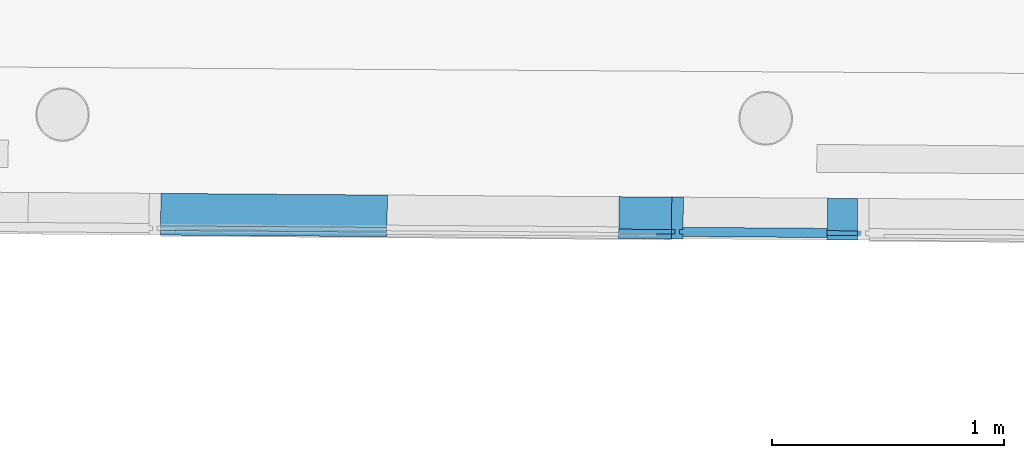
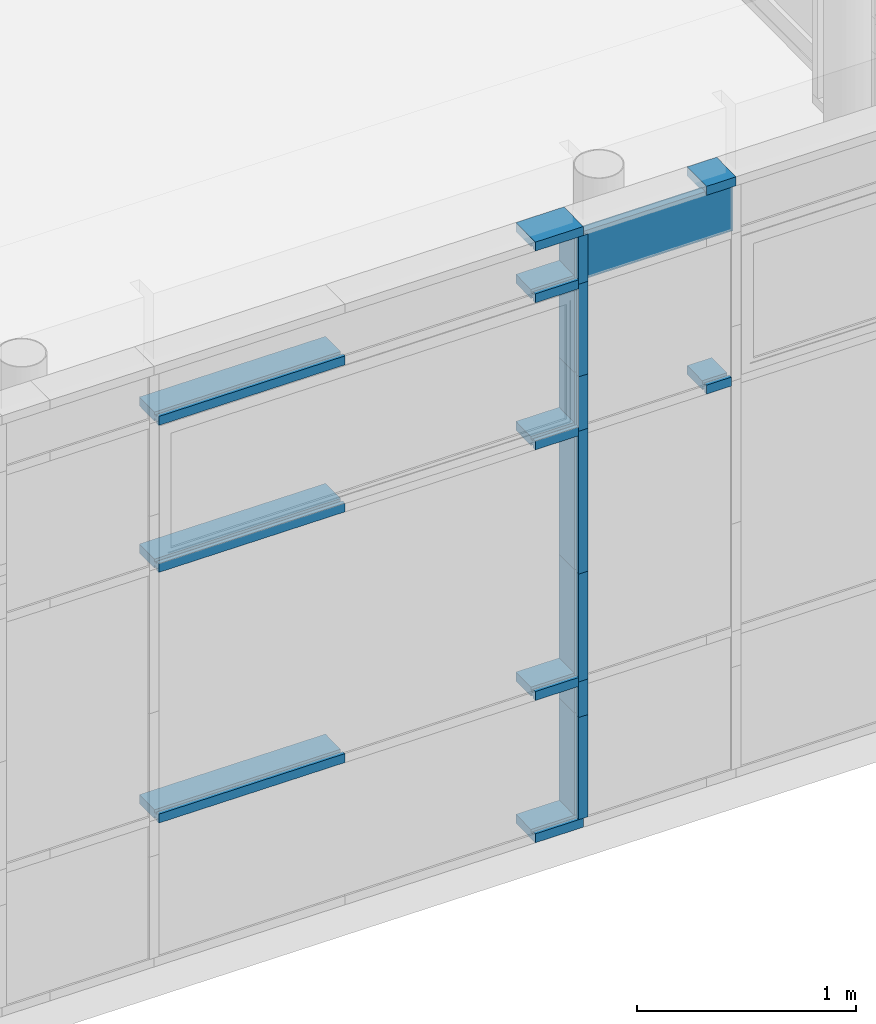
# One storey, part 173 of 196: 18 building element parts, 1 element without a shape of its own.
"""IFC2X3 building model written with IfcOpenShell, lengths in metres."""

from ifc_helpers import new_model, entity, si_unit, converted_unit, derived_unit, money_unit, direction, frame, origin_with_axes, place, context, subcontext, project, spatial, faceted_brep, material, type_object, element, aggregate, save


model = new_model("IFC2X3")

# Units and contexts
model_context = context("Model", 3, precision=1e-05, world=origin_with_axes(), true_north=direction((0.0, 1.0)))
body_context = subcontext(model_context, "Body", "Model", "MODEL_VIEW")
ifc_project = project(units=[si_unit("LENGTHUNIT", "METRE"), si_unit("AREAUNIT", "SQUARE_METRE"), si_unit("VOLUMEUNIT", "CUBIC_METRE"), converted_unit("PLANEANGLEUNIT", "DEGREE", entity("IfcPlaneAngleMeasure", 0.0174532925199), si_unit("PLANEANGLEUNIT", "RADIAN"), dimensions=[0, 0, 0, 0, 0, 0, 0]), money_unit("EUR"), converted_unit("TIMEUNIT", "Year", entity("IfcTimeMeasure", 31556926.0), si_unit("TIMEUNIT", "SECOND"), dimensions=[0, 0, 1, 0, 0, 0, 0]), si_unit("MASSUNIT", "GRAM", prefix="KILO"), si_unit("THERMODYNAMICTEMPERATUREUNIT", "DEGREE_CELSIUS"), si_unit("LUMINOUSINTENSITYUNIT", "LUMEN"), si_unit("ENERGYUNIT", "JOULE", prefix="MEGA"), derived_unit("THERMALCONDUCTANCEUNIT", [(si_unit("POWERUNIT", "WATT"), 1), (si_unit("LENGTHUNIT", "METRE"), -1), (si_unit("THERMODYNAMICTEMPERATUREUNIT", "KELVIN"), -1)]), derived_unit("SPECIFICHEATCAPACITYUNIT", [(si_unit("ENERGYUNIT", "JOULE"), 1), (si_unit("MASSUNIT", "GRAM", prefix="KILO"), -1), (si_unit("THERMODYNAMICTEMPERATUREUNIT", "KELVIN"), -1)]), derived_unit("MASSDENSITYUNIT", [(si_unit("MASSUNIT", "GRAM", prefix="KILO"), 1), (si_unit("VOLUMEUNIT", "CUBIC_METRE"), -1)])], contexts=[model_context])

# Site, building, storey
site_placement = place(None, origin_with_axes())
site = spatial("IfcSite", under=ifc_project, at=site_placement, Name="Gelände", CompositionType="ELEMENT")
building_placement = place(site_placement, origin_with_axes())
building = spatial("IfcBuilding", under=site, at=building_placement, Name="Gebäude", CompositionType="ELEMENT")
storey_placement = place(building_placement, frame((0.0, 0.0, -3.0), z_axis=(0.0, 0.0, 1.0), x_axis=(1.0, 0.0, 0.0)))
storey = spatial("IfcBuildingStorey", under=building, at=storey_placement, Name="KELLERGESCHOSS", CompositionType="ELEMENT", Elevation=-3.0)

# Proxy, building element parts
building_element_proxy_type = type_object("IfcBuildingElementProxyType", Name="Fassadentyp", PredefinedType="NOTDEFINED")
proxy_placement = place(storey_placement, frame((2.54090824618, 35.7894672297, 0.610000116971), z_axis=(0.0, 0.0, 1.0), x_axis=(1.0, 0.0, 0.0)))
proxy = element("IfcBuildingElementProxy", 1, at=proxy_placement, inside=storey, type_object=building_element_proxy_type, Name="Fassade-002")
ifc_material_1 = material(Name="45_Glas, Normalglas")
building_element_part_1_placement = place(proxy_placement, origin_with_axes())
building_element_part_1 = element("IfcBuildingElementPart", 2, at=building_element_part_1_placement, material=ifc_material_1, Name="45_Glas, Normalglas", context=body_context, shape_type="Brep", body=[
    faceted_brep([(3.48460452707, -0.00524939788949, 3.31499993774), (3.3393378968, -0.00419677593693, 3.31499993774), (3.33904805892, -0.0441957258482, 3.31499993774), (3.48431468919, -0.0452483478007, 3.31499993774), (3.48460452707, -0.00524939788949, 3.0464957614), (3.3393378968, -0.00419677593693, 3.0464957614), (2.70229887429, 0.000419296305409, 3.0464957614), (2.70229887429, 0.000419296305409, 3.31499993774), (2.70200903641, -0.0395796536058, 3.31499993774), (2.70200903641, -0.0395796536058, 3.0464957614), (3.33904805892, -0.0441957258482, 3.0464957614), (3.48431468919, -0.0452483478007, 3.0464957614)], [[[0, 1, 2, 3]], [[0, 4, 5, 6, 7, 1]], [[1, 7, 8, 2]], [[3, 2, 8, 9, 10, 11]], [[4, 0, 3, 11]], [[5, 4, 11, 10]], [[6, 5, 10, 9]], [[7, 6, 9, 8]]]),
])
ifc_material_2 = material(Name="53_Metall, Aluminium")
building_element_part_2_placement = place(proxy_placement, origin_with_axes())
building_element_part_2 = element("IfcBuildingElementPart", 3, at=building_element_part_2_placement, material=ifc_material_2, Name="53_Metall, Aluminium", context=body_context, shape_type="Brep", body=[
    faceted_brep([(1.43931531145, -0.00042921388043, 3.02649576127), (1.43931531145, -0.00042921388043, 3.01149576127), (1.44032974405, 0.139567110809, 3.01149576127), (1.44032974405, 0.139567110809, 3.06149576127), (1.43931531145, -0.00042921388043, 3.06149576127), (1.43931531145, -0.00042921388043, 3.04649576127), (1.43917039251, -0.020428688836, 3.04649576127), (1.43917039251, -0.020428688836, 3.06149576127), (1.43902547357, -0.0404281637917, 3.06149576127), (1.43902547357, -0.0404281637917, 3.01149576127), (1.43917039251, -0.020428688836, 3.01149576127), (1.43917039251, -0.020428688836, 3.02649576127), (0.461541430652, 0.0066558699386, 3.02649576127), (0.461541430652, 0.0066558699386, 3.01149576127), (0.46255586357, 0.146652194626, 3.01149576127), (0.46255586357, 0.146652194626, 3.06149576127), (0.461541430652, 0.0066558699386, 3.06149576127), (0.461541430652, 0.0066558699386, 3.04649576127), (0.461396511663, -0.0133436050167, 3.04649576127), (0.461396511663, -0.0133436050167, 3.06149576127), (0.461251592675, -0.033343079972, 3.06149576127), (0.461251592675, -0.033343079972, 3.01149576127), (0.461396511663, -0.0133436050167, 3.01149576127), (0.461396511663, -0.0133436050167, 3.02649576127)], [[[0, 1, 2, 3, 4, 5, 6, 7, 8, 9, 10, 11]], [[1, 0, 12, 13]], [[1, 13, 14, 2]], [[2, 14, 15, 3]], [[4, 3, 15, 16]], [[4, 16, 17, 5]], [[5, 17, 18, 6]], [[7, 6, 18, 19]], [[19, 20, 8, 7]], [[8, 20, 21, 9]], [[22, 10, 9, 21]], [[11, 10, 22, 23]], [[0, 11, 23, 12]], [[23, 22, 21, 20, 19, 18, 17, 16, 15, 14, 13, 12]]]),
])
building_element_part_3_placement = place(proxy_placement, origin_with_axes())
building_element_part_3 = element("IfcBuildingElementPart", 4, at=building_element_part_3_placement, material=ifc_material_2, Name="53_Metall, Aluminium", context=body_context, shape_type="Brep", body=[
    faceted_brep([(3.49453180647, -0.0153215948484, 3.31499994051), (3.49453180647, -0.0153215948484, 3.29999994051), (3.49554623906, 0.124674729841, 3.29999994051), (3.49554623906, 0.124674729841, 3.34999994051), (3.49424196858, -0.0553205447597, 3.34999994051), (3.49424196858, -0.0553205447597, 3.29999994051), (3.49438688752, -0.035321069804, 3.29999994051), (3.49438688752, -0.035321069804, 3.31499994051), (3.33926543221, -0.0141965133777, 3.31499994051), (3.33926543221, -0.0141965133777, 3.29999994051), (3.34027986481, 0.125799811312, 3.29999994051), (3.34027986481, 0.125799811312, 3.34999994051), (3.33897559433, -0.0541954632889, 3.34999994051), (3.33897559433, -0.0541954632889, 3.29999994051), (3.33912051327, -0.0341959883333, 3.29999994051), (3.33912051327, -0.0341959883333, 3.31499994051)], [[[0, 1, 2, 3, 4, 5, 6, 7]], [[0, 8, 9, 1]], [[9, 10, 2, 1]], [[10, 11, 3, 2]], [[11, 12, 4, 3]], [[12, 13, 5, 4]], [[6, 5, 13, 14]], [[14, 15, 7, 6]], [[7, 15, 8, 0]], [[8, 15, 14, 13, 12, 11, 10, 9]]]),
])
building_element_part_4_placement = place(proxy_placement, origin_with_axes())
building_element_part_4 = element("IfcBuildingElementPart", 5, at=building_element_part_4_placement, material=ifc_material_2, Name="53_Metall, Aluminium", context=body_context, shape_type="Brep", body=[
    faceted_brep([(3.46953245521, -0.015140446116, 2.20648768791), (3.46953245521, -0.015140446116, 2.19148768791), (3.47054688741, 0.124855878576, 2.19148768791), (3.47054688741, 0.124855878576, 2.24148768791), (3.46953245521, -0.015140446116, 2.24148768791), (3.46953245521, -0.015140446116, 2.22648768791), (3.46938753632, -0.035139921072, 2.22648768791), (3.46938753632, -0.035139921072, 2.24148768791), (3.46924261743, -0.0551393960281, 2.24148768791), (3.46924261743, -0.0551393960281, 2.19148768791), (3.46938753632, -0.035139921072, 2.19148768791), (3.46938753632, -0.035139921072, 2.20648768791), (3.33926543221, -0.0141965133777, 2.20648768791), (3.33926543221, -0.0141965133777, 2.19148768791), (3.34027986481, 0.125799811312, 2.19148768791), (3.34027986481, 0.125799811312, 2.24148768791), (3.33926543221, -0.0141965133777, 2.24148768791), (3.33926543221, -0.0141965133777, 2.22648768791), (3.33912051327, -0.0341959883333, 2.22648768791), (3.33912051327, -0.0341959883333, 2.24148768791), (3.33897559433, -0.0541954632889, 2.24148768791), (3.33897559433, -0.0541954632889, 2.19148768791), (3.33912051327, -0.0341959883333, 2.19148768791), (3.33912051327, -0.0341959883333, 2.20648768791)], [[[0, 1, 2, 3, 4, 5, 6, 7, 8, 9, 10, 11]], [[1, 0, 12, 13]], [[1, 13, 14, 2]], [[3, 2, 14, 15]], [[4, 3, 15, 16]], [[4, 16, 17, 5]], [[5, 17, 18, 6]], [[7, 6, 18, 19]], [[19, 20, 8, 7]], [[9, 8, 20, 21]], [[22, 10, 9, 21]], [[11, 10, 22, 23]], [[0, 11, 23, 12]], [[23, 22, 21, 20, 19, 18, 17, 16, 15, 14, 13, 12]]]),
])
building_element_part_5_placement = place(proxy_placement, origin_with_axes())
building_element_part_5 = element("IfcBuildingElementPart", 6, at=building_element_part_5_placement, material=ifc_material_2, Name="53_Metall, Aluminium", context=body_context, shape_type="Brep", body=[
    faceted_brep([(2.70222641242, -0.00958044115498, 2.51999988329), (2.71722601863, -0.00968913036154, 2.51999988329), (2.71824045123, 0.130307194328, 2.51999988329), (2.66824176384, 0.130669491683, 2.51999988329), (2.66722733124, -0.00932683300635, 2.51999988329), (2.68222693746, -0.0094355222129, 2.51999988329), (2.68208201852, -0.0294349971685, 2.51999988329), (2.6670824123, -0.029326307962, 2.51999988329), (2.66693749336, -0.0493257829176, 2.51999988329), (2.71693618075, -0.0496880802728, 2.51999988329), (2.71708109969, -0.0296886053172, 2.51999988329), (2.70208149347, -0.0295799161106, 2.51999988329), (2.70222641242, -0.00958044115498, 2.21648768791), (2.71722601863, -0.00968913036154, 2.21648768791), (2.71824045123, 0.130307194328, 2.21648768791), (2.66824176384, 0.130669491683, 2.21648768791), (2.66722733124, -0.00932683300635, 2.21648768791), (2.68222693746, -0.0094355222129, 2.21648768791), (2.68208201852, -0.0294349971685, 2.21648768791), (2.6670824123, -0.029326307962, 2.21648768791), (2.66693749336, -0.0493257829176, 2.21648768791), (2.71693618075, -0.0496880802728, 2.21648768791), (2.71708109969, -0.0296886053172, 2.21648768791), (2.70208149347, -0.0295799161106, 2.21648768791)], [[[0, 1, 2, 3, 4, 5, 6, 7, 8, 9, 10, 11]], [[1, 0, 12, 13]], [[1, 13, 14, 2]], [[3, 2, 14, 15]], [[4, 3, 15, 16]], [[4, 16, 17, 5]], [[5, 17, 18, 6]], [[7, 6, 18, 19]], [[19, 20, 8, 7]], [[9, 8, 20, 21]], [[22, 10, 9, 21]], [[11, 10, 22, 23]], [[0, 11, 23, 12]], [[23, 22, 21, 20, 19, 18, 17, 16, 15, 14, 13, 12]]]),
])
building_element_part_6_placement = place(proxy_placement, origin_with_axes())
building_element_part_6 = element("IfcBuildingElementPart", 7, at=building_element_part_6_placement, material=ifc_material_2, Name="53_Metall, Aluminium", context=body_context, shape_type="Brep", body=[
    faceted_brep([(2.69222667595, -0.0095079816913, 3.31499994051), (2.69222667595, -0.0095079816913, 3.29999994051), (2.69324110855, 0.130488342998, 3.29999994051), (2.69324110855, 0.130488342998, 3.34999994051), (2.69193683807, -0.0495069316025, 3.34999994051), (2.69193683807, -0.0495069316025, 3.29999994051), (2.69208175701, -0.0295074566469, 3.29999994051), (2.69208175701, -0.0295074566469, 3.31499994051), (2.43928905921, -0.00767516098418, 3.31499994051), (2.43928905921, -0.00767516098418, 3.29999994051), (2.44030349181, 0.132321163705, 3.29999994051), (2.44030349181, 0.132321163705, 3.34999994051), (2.43899922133, -0.0476741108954, 3.34999994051), (2.43899922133, -0.0476741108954, 3.29999994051), (2.43914414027, -0.0276746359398, 3.29999994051), (2.43914414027, -0.0276746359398, 3.31499994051)], [[[0, 1, 2, 3, 4, 5, 6, 7]], [[0, 8, 9, 1]], [[9, 10, 2, 1]], [[10, 11, 3, 2]], [[11, 12, 4, 3]], [[12, 13, 5, 4]], [[6, 5, 13, 14]], [[14, 15, 7, 6]], [[7, 15, 8, 0]], [[8, 15, 14, 13, 12, 11, 10, 9]]]),
])
building_element_part_7_placement = place(proxy_placement, origin_with_axes())
building_element_part_7 = element("IfcBuildingElementPart", 8, at=building_element_part_7_placement, material=ifc_material_2, Name="53_Metall, Aluminium", context=body_context, shape_type="Brep", body=[
    faceted_brep([(2.70222640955, -0.00958044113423, 2.21648768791), (2.71722601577, -0.0096891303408, 2.21648768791), (2.71824044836, 0.130307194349, 2.21648768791), (2.66824176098, 0.130669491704, 2.21648768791), (2.66722732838, -0.0093268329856, 2.21648768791), (2.6822269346, -0.00943552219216, 2.21648768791), (2.68208201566, -0.0294349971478, 2.21648768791), (2.66708240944, -0.0293263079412, 2.21648768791), (2.6669374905, -0.0493257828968, 2.21648768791), (2.71693617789, -0.049688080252, 2.21648768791), (2.71708109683, -0.0296886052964, 2.21648768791), (2.70208149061, -0.0295799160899, 2.21648768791), (2.70222640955, -0.00958044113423, 1.41999988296), (2.71722601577, -0.0096891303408, 1.41999988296), (2.71824044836, 0.130307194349, 1.41999988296), (2.66824176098, 0.130669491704, 1.41999988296), (2.66722732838, -0.0093268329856, 1.41999988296), (2.6822269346, -0.00943552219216, 1.41999988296), (2.68208201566, -0.0294349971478, 1.41999988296), (2.66708240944, -0.0293263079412, 1.41999988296), (2.6669374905, -0.0493257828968, 1.41999988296), (2.71693617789, -0.049688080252, 1.41999988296), (2.71708109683, -0.0296886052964, 1.41999988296), (2.70208149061, -0.0295799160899, 1.41999988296)], [[[0, 1, 2, 3, 4, 5, 6, 7, 8, 9, 10, 11]], [[1, 0, 12, 13]], [[1, 13, 14, 2]], [[3, 2, 14, 15]], [[4, 3, 15, 16]], [[4, 16, 17, 5]], [[5, 17, 18, 6]], [[7, 6, 18, 19]], [[19, 20, 8, 7]], [[9, 8, 20, 21]], [[22, 10, 9, 21]], [[11, 10, 22, 23]], [[0, 11, 23, 12]], [[23, 22, 21, 20, 19, 18, 17, 16, 15, 14, 13, 12]]]),
])
building_element_part_8_placement = place(proxy_placement, origin_with_axes())
building_element_part_8 = element("IfcBuildingElementPart", 9, at=building_element_part_8_placement, material=ifc_material_2, Name="53_Metall, Aluminium", context=body_context, shape_type="Brep", body=[
    faceted_brep([(2.69222667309, -0.00950798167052, 0.03499984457), (2.69208175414, -0.0295074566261, 0.03499984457), (2.69208175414, -0.0295074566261, 0.04999984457), (2.6919368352, -0.0495069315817, 0.04999984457), (2.6919368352, -0.0495069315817, -1.55430020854e-07), (2.69324110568, 0.130488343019, -1.55430020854e-07), (2.69324110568, 0.130488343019, 0.04999984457), (2.69222667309, -0.00950798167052, 0.04999984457), (2.43928905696, -0.00767516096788, 0.03499984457), (2.43914413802, -0.0276746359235, 0.03499984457), (2.43914413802, -0.0276746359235, 0.04999984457), (2.43899921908, -0.0476741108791, 0.04999984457), (2.43899921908, -0.0476741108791, -1.55430020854e-07), (2.44030348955, 0.132321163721, -1.55430020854e-07), (2.44030348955, 0.132321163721, 0.04999984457), (2.43928905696, -0.00767516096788, 0.04999984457)], [[[0, 1, 2, 3, 4, 5, 6, 7]], [[1, 0, 8, 9]], [[10, 2, 1, 9]], [[2, 10, 11, 3]], [[12, 4, 3, 11]], [[13, 5, 4, 12]], [[14, 6, 5, 13]], [[15, 7, 6, 14]], [[0, 7, 15, 8]], [[8, 15, 14, 13, 12, 11, 10, 9]]]),
])
building_element_part_9_placement = place(proxy_placement, origin_with_axes())
building_element_part_9 = element("IfcBuildingElementPart", 10, at=building_element_part_9_placement, material=ifc_material_2, Name="53_Metall, Aluminium", context=body_context, shape_type="Brep", body=[
    faceted_brep([(2.66722733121, -0.00932683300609, 2.20648768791), (2.66722733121, -0.00932683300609, 2.19148768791), (2.6682417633, 0.130669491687, 2.19148768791), (2.6682417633, 0.130669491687, 2.24148768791), (2.66722733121, -0.00932683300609, 2.24148768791), (2.66722733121, -0.00932683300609, 2.22648768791), (2.66708241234, -0.0293263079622, 2.22648768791), (2.66708241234, -0.0293263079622, 2.24148768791), (2.66693749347, -0.0493257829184, 2.24148768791), (2.66693749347, -0.0493257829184, 2.19148768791), (2.66708241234, -0.0293263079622, 2.19148768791), (2.66708241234, -0.0293263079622, 2.20648768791), (2.4392890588, -0.00767516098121, 2.20648768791), (2.4392890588, -0.00767516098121, 2.19148768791), (2.4403034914, 0.132321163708, 2.19148768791), (2.4403034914, 0.132321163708, 2.24148768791), (2.4392890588, -0.00767516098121, 2.24148768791), (2.4392890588, -0.00767516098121, 2.22648768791), (2.43914413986, -0.0276746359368, 2.22648768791), (2.43914413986, -0.0276746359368, 2.24148768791), (2.43899922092, -0.0476741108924, 2.24148768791), (2.43899922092, -0.0476741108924, 2.19148768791), (2.43914413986, -0.0276746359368, 2.19148768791), (2.43914413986, -0.0276746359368, 2.20648768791)], [[[0, 1, 2, 3, 4, 5, 6, 7, 8, 9, 10, 11]], [[1, 0, 12, 13]], [[1, 13, 14, 2]], [[3, 2, 14, 15]], [[4, 3, 15, 16]], [[4, 16, 17, 5]], [[5, 17, 18, 6]], [[7, 6, 18, 19]], [[19, 20, 8, 7]], [[9, 8, 20, 21]], [[22, 10, 9, 21]], [[11, 10, 22, 23]], [[0, 11, 23, 12]], [[23, 22, 21, 20, 19, 18, 17, 16, 15, 14, 13, 12]]]),
])
building_element_part_10_placement = place(proxy_placement, origin_with_axes())
building_element_part_10 = element("IfcBuildingElementPart", 11, at=building_element_part_10_placement, material=ifc_material_2, Name="53_Metall, Aluminium", context=body_context, shape_type="Brep", body=[
    faceted_brep([(2.70222641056, -0.00958044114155, 0.619999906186), (2.71722601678, -0.00968913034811, 0.619999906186), (2.71824044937, 0.130307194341, 0.619999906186), (2.66824176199, 0.130669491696, 0.619999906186), (2.66722732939, -0.00932683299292, 0.619999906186), (2.68222693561, -0.00943552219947, 0.619999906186), (2.68208201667, -0.0294349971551, 0.619999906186), (2.66708241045, -0.0293263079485, 0.619999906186), (2.66693749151, -0.0493257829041, 0.619999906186), (2.7169361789, -0.0496880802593, 0.619999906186), (2.71708109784, -0.0296886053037, 0.619999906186), (2.70208149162, -0.0295799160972, 0.619999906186), (2.70222641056, -0.00958044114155, 0.0499998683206), (2.71722601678, -0.00968913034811, 0.0499998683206), (2.71824044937, 0.130307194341, 0.0499998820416), (2.66824176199, 0.130669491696, 0.0499998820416), (2.66722732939, -0.00932683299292, 0.0499998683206), (2.68222693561, -0.00943552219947, 0.0499998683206), (2.68208201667, -0.0294349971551, 0.0499998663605), (2.66708241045, -0.0293263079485, 0.0499998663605), (2.66693749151, -0.0493257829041, 0.0499998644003), (2.7169361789, -0.0496880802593, 0.0499998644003), (2.71708109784, -0.0296886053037, 0.0499998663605), (2.70208149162, -0.0295799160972, 0.0499998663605)], [[[0, 1, 2, 3, 4, 5, 6, 7, 8, 9, 10, 11]], [[1, 0, 12, 13]], [[1, 13, 14, 2]], [[2, 14, 15, 3]], [[4, 3, 15, 16]], [[4, 16, 17, 5]], [[5, 17, 18, 6]], [[7, 6, 18, 19]], [[19, 20, 8, 7]], [[8, 20, 21, 9]], [[22, 10, 9, 21]], [[11, 10, 22, 23]], [[0, 11, 23, 12]], [[23, 22, 21, 20, 19, 18, 17, 16, 15, 14, 13, 12]]]),
])
building_element_part_11_placement = place(proxy_placement, origin_with_axes())
building_element_part_11 = element("IfcBuildingElementPart", 12, at=building_element_part_11_placement, material=ifc_material_2, Name="53_Metall, Aluminium", context=body_context, shape_type="Brep", body=[
    faceted_brep([(2.70222641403, -0.00958044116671, 1.41999988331), (2.71722602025, -0.00968913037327, 1.41999988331), (2.71824045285, 0.130307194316, 1.41999988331), (2.66824176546, 0.130669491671, 1.41999988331), (2.66722733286, -0.00932683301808, 1.41999988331), (2.68222693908, -0.00943552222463, 1.41999988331), (2.68208202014, -0.0294349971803, 1.41999988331), (2.66708241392, -0.0293263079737, 1.41999988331), (2.66693749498, -0.0493257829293, 1.41999988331), (2.71693618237, -0.0496880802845, 1.41999988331), (2.71708110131, -0.0296886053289, 1.41999988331), (2.70208149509, -0.0295799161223, 1.41999988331), (2.70222641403, -0.00958044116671, 0.818463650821), (2.71722602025, -0.00968913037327, 0.818463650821), (2.71824045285, 0.130307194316, 0.818463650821), (2.66824176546, 0.130669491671, 0.818463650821), (2.66722733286, -0.00932683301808, 0.818463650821), (2.68222693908, -0.00943552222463, 0.818463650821), (2.68208202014, -0.0294349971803, 0.818463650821), (2.66708241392, -0.0293263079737, 0.818463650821), (2.66693749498, -0.0493257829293, 0.818463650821), (2.71693618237, -0.0496880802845, 0.818463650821), (2.71708110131, -0.0296886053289, 0.818463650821), (2.70208149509, -0.0295799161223, 0.818463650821)], [[[0, 1, 2, 3, 4, 5, 6, 7, 8, 9, 10, 11]], [[1, 0, 12, 13]], [[1, 13, 14, 2]], [[3, 2, 14, 15]], [[4, 3, 15, 16]], [[4, 16, 17, 5]], [[5, 17, 18, 6]], [[7, 6, 18, 19]], [[19, 20, 8, 7]], [[9, 8, 20, 21]], [[22, 10, 9, 21]], [[11, 10, 22, 23]], [[0, 11, 23, 12]], [[23, 22, 21, 20, 19, 18, 17, 16, 15, 14, 13, 12]]]),
])
building_element_part_12_placement = place(proxy_placement, origin_with_axes())
building_element_part_12 = element("IfcBuildingElementPart", 13, at=building_element_part_12_placement, material=ifc_material_2, Name="53_Metall, Aluminium", context=body_context, shape_type="Brep", body=[
    faceted_brep([(1.43931531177, -0.000429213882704, 2.20648768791), (1.43931531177, -0.000429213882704, 2.19148768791), (1.44032974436, 0.139567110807, 2.19148768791), (1.44032974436, 0.139567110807, 2.24148768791), (1.43931531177, -0.000429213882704, 2.24148768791), (1.43931531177, -0.000429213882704, 2.22648768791), (1.43917039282, -0.0204286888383, 2.22648768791), (1.43917039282, -0.0204286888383, 2.24148768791), (1.43902547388, -0.0404281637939, 2.24148768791), (1.43902547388, -0.0404281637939, 2.19148768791), (1.43917039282, -0.0204286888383, 2.19148768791), (1.43917039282, -0.0204286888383, 2.20648768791), (0.461541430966, 0.00665586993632, 2.20648768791), (0.461541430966, 0.00665586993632, 2.19148768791), (0.462555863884, 0.146652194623, 2.19148768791), (0.462555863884, 0.146652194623, 2.24148768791), (0.461541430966, 0.00665586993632, 2.24148768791), (0.461541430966, 0.00665586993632, 2.22648768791), (0.461396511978, -0.013343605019, 2.22648768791), (0.461396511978, -0.013343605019, 2.24148768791), (0.461251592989, -0.0333430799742, 2.24148768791), (0.461251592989, -0.0333430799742, 2.19148768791), (0.461396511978, -0.013343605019, 2.19148768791), (0.461396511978, -0.013343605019, 2.20648768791)], [[[0, 1, 2, 3, 4, 5, 6, 7, 8, 9, 10, 11]], [[1, 0, 12, 13]], [[1, 13, 14, 2]], [[2, 14, 15, 3]], [[4, 3, 15, 16]], [[4, 16, 17, 5]], [[5, 17, 18, 6]], [[7, 6, 18, 19]], [[19, 20, 8, 7]], [[8, 20, 21, 9]], [[22, 10, 9, 21]], [[11, 10, 22, 23]], [[0, 11, 23, 12]], [[23, 22, 21, 20, 19, 18, 17, 16, 15, 14, 13, 12]]]),
])
building_element_part_13_placement = place(proxy_placement, origin_with_axes())
building_element_part_13 = element("IfcBuildingElementPart", 14, at=building_element_part_13_placement, material=ifc_material_2, Name="53_Metall, Aluminium", context=body_context, shape_type="Brep", body=[
    faceted_brep([(2.70222641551, -0.00958044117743, 0.818463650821), (2.71722602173, -0.00968913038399, 0.818463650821), (2.71824045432, 0.130307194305, 0.818463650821), (2.66824176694, 0.130669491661, 0.818463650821), (2.66722733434, -0.00932683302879, 0.818463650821), (2.68222694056, -0.00943552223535, 0.818463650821), (2.68208202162, -0.029434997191, 0.818463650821), (2.6670824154, -0.0293263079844, 0.818463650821), (2.66693749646, -0.04932578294, 0.818463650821), (2.71693618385, -0.0496880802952, 0.818463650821), (2.71708110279, -0.0296886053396, 0.818463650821), (2.70208149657, -0.029579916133, 0.818463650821), (2.70222641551, -0.00958044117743, 0.619999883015), (2.71722602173, -0.00968913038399, 0.619999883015), (2.71824045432, 0.130307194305, 0.619999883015), (2.66824176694, 0.130669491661, 0.619999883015), (2.66722733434, -0.00932683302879, 0.619999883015), (2.68222694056, -0.00943552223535, 0.619999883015), (2.68208202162, -0.029434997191, 0.619999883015), (2.6670824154, -0.0293263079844, 0.619999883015), (2.66693749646, -0.04932578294, 0.619999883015), (2.71693618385, -0.0496880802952, 0.619999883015), (2.71708110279, -0.0296886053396, 0.619999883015), (2.70208149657, -0.029579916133, 0.619999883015)], [[[0, 1, 2, 3, 4, 5, 6, 7, 8, 9, 10, 11]], [[1, 0, 12, 13]], [[1, 13, 14, 2]], [[3, 2, 14, 15]], [[4, 3, 15, 16]], [[4, 16, 17, 5]], [[5, 17, 18, 6]], [[7, 6, 18, 19]], [[19, 20, 8, 7]], [[9, 8, 20, 21]], [[22, 10, 9, 21]], [[11, 10, 22, 23]], [[0, 11, 23, 12]], [[23, 22, 21, 20, 19, 18, 17, 16, 15, 14, 13, 12]]]),
])
building_element_part_14_placement = place(proxy_placement, origin_with_axes())
building_element_part_14 = element("IfcBuildingElementPart", 15, at=building_element_part_14_placement, material=ifc_material_2, Name="53_Metall, Aluminium", context=body_context, shape_type="Brep", body=[
    faceted_brep([(2.66722733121, -0.00932683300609, 0.808463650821), (2.66722733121, -0.00932683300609, 0.793463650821), (2.6682417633, 0.130669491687, 0.793463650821), (2.6682417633, 0.130669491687, 0.843463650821), (2.66722733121, -0.00932683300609, 0.843463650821), (2.66722733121, -0.00932683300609, 0.828463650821), (2.66708241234, -0.0293263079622, 0.828463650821), (2.66708241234, -0.0293263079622, 0.843463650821), (2.66693749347, -0.0493257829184, 0.843463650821), (2.66693749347, -0.0493257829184, 0.793463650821), (2.66708241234, -0.0293263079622, 0.793463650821), (2.66708241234, -0.0293263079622, 0.808463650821), (2.4392890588, -0.00767516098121, 0.808463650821), (2.4392890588, -0.00767516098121, 0.793463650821), (2.4403034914, 0.132321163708, 0.793463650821), (2.4403034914, 0.132321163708, 0.843463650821), (2.4392890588, -0.00767516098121, 0.843463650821), (2.4392890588, -0.00767516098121, 0.828463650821), (2.43914413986, -0.0276746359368, 0.828463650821), (2.43914413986, -0.0276746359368, 0.843463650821), (2.43899922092, -0.0476741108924, 0.843463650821), (2.43899922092, -0.0476741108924, 0.793463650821), (2.43914413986, -0.0276746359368, 0.793463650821), (2.43914413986, -0.0276746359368, 0.808463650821)], [[[0, 1, 2, 3, 4, 5, 6, 7, 8, 9, 10, 11]], [[1, 0, 12, 13]], [[1, 13, 14, 2]], [[3, 2, 14, 15]], [[4, 3, 15, 16]], [[4, 16, 17, 5]], [[5, 17, 18, 6]], [[7, 6, 18, 19]], [[19, 20, 8, 7]], [[9, 8, 20, 21]], [[22, 10, 9, 21]], [[11, 10, 22, 23]], [[0, 11, 23, 12]], [[23, 22, 21, 20, 19, 18, 17, 16, 15, 14, 13, 12]]]),
])
building_element_part_15_placement = place(proxy_placement, origin_with_axes())
building_element_part_15 = element("IfcBuildingElementPart", 16, at=building_element_part_15_placement, material=ifc_material_2, Name="53_Metall, Aluminium", context=body_context, shape_type="Brep", body=[
    faceted_brep([(1.43931529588, -0.000429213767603, 0.808463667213), (1.43931529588, -0.000429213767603, 0.793463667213), (1.44032972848, 0.139567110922, 0.793463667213), (1.44032972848, 0.139567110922, 0.843463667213), (1.43931529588, -0.000429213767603, 0.843463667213), (1.43931529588, -0.000429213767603, 0.828463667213), (1.43917037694, -0.0204286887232, 0.828463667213), (1.43917037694, -0.0204286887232, 0.843463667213), (1.439025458, -0.0404281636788, 0.843463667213), (1.439025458, -0.0404281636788, 0.793463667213), (1.43917037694, -0.0204286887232, 0.793463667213), (1.43917037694, -0.0204286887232, 0.808463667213), (0.461541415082, 0.00665587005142, 0.808463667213), (0.461541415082, 0.00665587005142, 0.793463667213), (0.462555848, 0.146652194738, 0.793463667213), (0.462555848, 0.146652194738, 0.843463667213), (0.461541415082, 0.00665587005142, 0.843463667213), (0.461541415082, 0.00665587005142, 0.828463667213), (0.461396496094, -0.0133436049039, 0.828463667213), (0.461396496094, -0.0133436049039, 0.843463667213), (0.461251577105, -0.0333430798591, 0.843463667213), (0.461251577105, -0.0333430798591, 0.793463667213), (0.461396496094, -0.0133436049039, 0.793463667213), (0.461396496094, -0.0133436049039, 0.808463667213)], [[[0, 1, 2, 3, 4, 5, 6, 7, 8, 9, 10, 11]], [[1, 0, 12, 13]], [[1, 13, 14, 2]], [[2, 14, 15, 3]], [[4, 3, 15, 16]], [[4, 16, 17, 5]], [[5, 17, 18, 6]], [[7, 6, 18, 19]], [[19, 20, 8, 7]], [[8, 20, 21, 9]], [[22, 10, 9, 21]], [[11, 10, 22, 23]], [[0, 11, 23, 12]], [[23, 22, 21, 20, 19, 18, 17, 16, 15, 14, 13, 12]]]),
])
building_element_part_16_placement = place(proxy_placement, origin_with_axes())
building_element_part_16 = element("IfcBuildingElementPart", 17, at=building_element_part_16_placement, material=ifc_material_2, Name="53_Metall, Aluminium", context=body_context, shape_type="Brep", body=[
    faceted_brep([(2.66722733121, -0.00932683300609, 3.02649576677), (2.66722733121, -0.00932683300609, 3.01149576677), (2.6682417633, 0.130669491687, 3.01149576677), (2.6682417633, 0.130669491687, 3.06149576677), (2.66722733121, -0.00932683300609, 3.06149576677), (2.66722733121, -0.00932683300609, 3.04649576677), (2.66708241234, -0.0293263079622, 3.04649576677), (2.66708241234, -0.0293263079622, 3.06149576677), (2.66693749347, -0.0493257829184, 3.06149576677), (2.66693749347, -0.0493257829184, 3.01149576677), (2.66708241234, -0.0293263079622, 3.01149576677), (2.66708241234, -0.0293263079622, 3.02649576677), (2.4392890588, -0.00767516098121, 3.02649576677), (2.4392890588, -0.00767516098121, 3.01149576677), (2.4403034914, 0.132321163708, 3.01149576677), (2.4403034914, 0.132321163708, 3.06149576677), (2.4392890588, -0.00767516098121, 3.06149576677), (2.4392890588, -0.00767516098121, 3.04649576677), (2.43914413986, -0.0276746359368, 3.04649576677), (2.43914413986, -0.0276746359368, 3.06149576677), (2.43899922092, -0.0476741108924, 3.06149576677), (2.43899922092, -0.0476741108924, 3.01149576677), (2.43914413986, -0.0276746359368, 3.01149576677), (2.43914413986, -0.0276746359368, 3.02649576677)], [[[0, 1, 2, 3, 4, 5, 6, 7, 8, 9, 10, 11]], [[1, 0, 12, 13]], [[1, 13, 14, 2]], [[3, 2, 14, 15]], [[4, 3, 15, 16]], [[4, 16, 17, 5]], [[5, 17, 18, 6]], [[7, 6, 18, 19]], [[19, 20, 8, 7]], [[9, 8, 20, 21]], [[22, 10, 9, 21]], [[11, 10, 22, 23]], [[0, 11, 23, 12]], [[23, 22, 21, 20, 19, 18, 17, 16, 15, 14, 13, 12]]]),
])
building_element_part_17_placement = place(proxy_placement, origin_with_axes())
building_element_part_17 = element("IfcBuildingElementPart", 18, at=building_element_part_17_placement, material=ifc_material_2, Name="53_Metall, Aluminium", context=body_context, shape_type="Brep", body=[
    faceted_brep([(2.70222641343, -0.00958044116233, 3.29999994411), (2.71722601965, -0.0096891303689, 3.29999994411), (2.71824045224, 0.13030719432, 3.29999994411), (2.66824176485, 0.130669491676, 3.29999994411), (2.66722733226, -0.0093268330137, 3.29999994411), (2.68222693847, -0.00943552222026, 3.29999994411), (2.68208201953, -0.0294349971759, 3.29999994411), (2.66708241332, -0.0293263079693, 3.29999994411), (2.66693749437, -0.0493257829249, 3.29999994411), (2.71693618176, -0.0496880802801, 3.29999994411), (2.71708110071, -0.0296886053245, 3.29999994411), (2.70208149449, -0.029579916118, 3.29999994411), (2.70222641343, -0.00958044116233, 3.03649576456), (2.71722601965, -0.0096891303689, 3.03649576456), (2.71824045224, 0.13030719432, 3.03649576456), (2.66824176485, 0.130669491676, 3.03649576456), (2.66722733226, -0.0093268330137, 3.03649576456), (2.68222693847, -0.00943552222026, 3.03649576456), (2.68208201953, -0.0294349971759, 3.03649576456), (2.66708241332, -0.0293263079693, 3.03649576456), (2.66693749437, -0.0493257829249, 3.03649576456), (2.71693618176, -0.0496880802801, 3.03649576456), (2.71708110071, -0.0296886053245, 3.03649576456), (2.70208149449, -0.029579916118, 3.03649576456)], [[[0, 1, 2, 3, 4, 5, 6, 7, 8, 9, 10, 11]], [[1, 0, 12, 13]], [[1, 13, 14, 2]], [[3, 2, 14, 15]], [[4, 3, 15, 16]], [[4, 16, 17, 5]], [[5, 17, 18, 6]], [[7, 6, 18, 19]], [[19, 20, 8, 7]], [[9, 8, 20, 21]], [[22, 10, 9, 21]], [[11, 10, 22, 23]], [[0, 11, 23, 12]], [[23, 22, 21, 20, 19, 18, 17, 16, 15, 14, 13, 12]]]),
])
building_element_part_18_placement = place(proxy_placement, origin_with_axes())
building_element_part_18 = element("IfcBuildingElementPart", 19, at=building_element_part_18_placement, material=ifc_material_2, Name="53_Metall, Aluminium", context=body_context, shape_type="Brep", body=[
    faceted_brep([(2.70222641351, -0.00958044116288, 3.03649576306), (2.71722601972, -0.00968913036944, 3.03649576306), (2.71824045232, 0.13030719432, 3.03649576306), (2.66824176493, 0.130669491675, 3.03649576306), (2.66722733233, -0.00932683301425, 3.03649576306), (2.68222693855, -0.00943552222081, 3.03649576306), (2.68208201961, -0.0294349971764, 3.03649576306), (2.66708241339, -0.0293263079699, 3.03649576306), (2.66693749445, -0.0493257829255, 3.03649576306), (2.71693618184, -0.0496880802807, 3.03649576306), (2.71708110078, -0.0296886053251, 3.03649576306), (2.70208149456, -0.0295799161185, 3.03649576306), (2.70222641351, -0.00958044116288, 2.51999988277), (2.71722601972, -0.00968913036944, 2.51999988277), (2.71824045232, 0.13030719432, 2.51999988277), (2.66824176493, 0.130669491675, 2.51999988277), (2.66722733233, -0.00932683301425, 2.51999988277), (2.68222693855, -0.00943552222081, 2.51999988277), (2.68208201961, -0.0294349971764, 2.51999988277), (2.66708241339, -0.0293263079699, 2.51999988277), (2.66693749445, -0.0493257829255, 2.51999988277), (2.71693618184, -0.0496880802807, 2.51999988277), (2.71708110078, -0.0296886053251, 2.51999988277), (2.70208149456, -0.0295799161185, 2.51999988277)], [[[0, 1, 2, 3, 4, 5, 6, 7, 8, 9, 10, 11]], [[1, 0, 12, 13]], [[1, 13, 14, 2]], [[3, 2, 14, 15]], [[4, 3, 15, 16]], [[4, 16, 17, 5]], [[5, 17, 18, 6]], [[7, 6, 18, 19]], [[19, 20, 8, 7]], [[9, 8, 20, 21]], [[22, 10, 9, 21]], [[11, 10, 22, 23]], [[0, 11, 23, 12]], [[23, 22, 21, 20, 19, 18, 17, 16, 15, 14, 13, 12]]]),
])
aggregate(proxy, [building_element_part_1, building_element_part_2, building_element_part_3, building_element_part_4, building_element_part_5, building_element_part_6, building_element_part_7, building_element_part_8, building_element_part_9, building_element_part_10, building_element_part_11, building_element_part_12, building_element_part_13, building_element_part_14, building_element_part_15, building_element_part_16, building_element_part_17, building_element_part_18])

save(model, "model.ifc")
